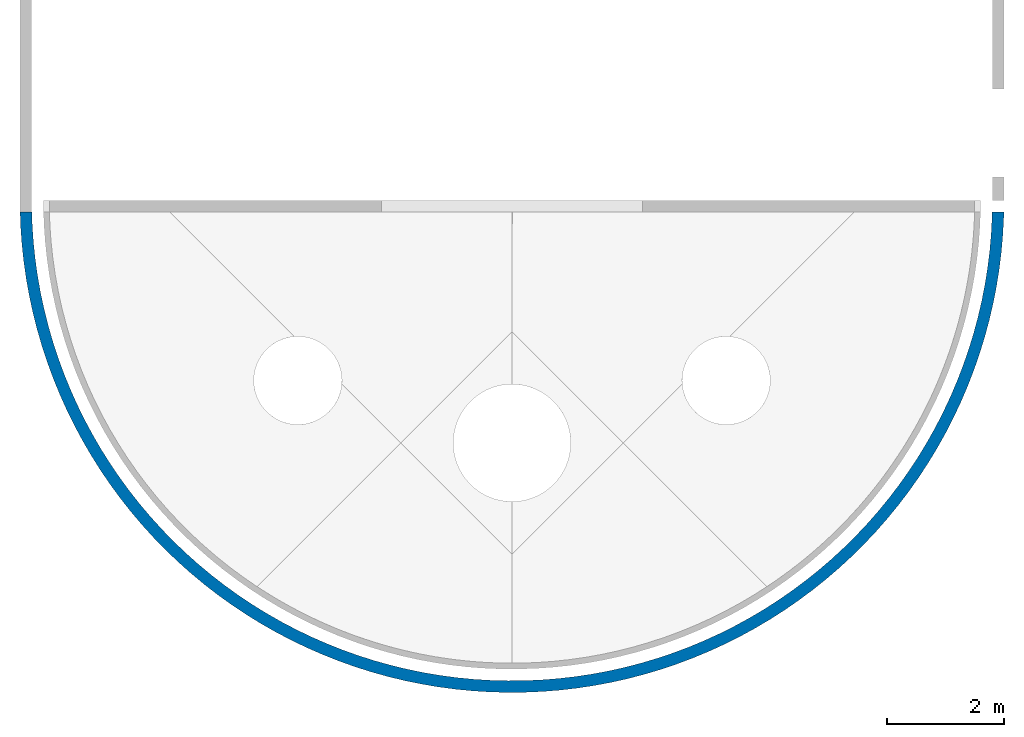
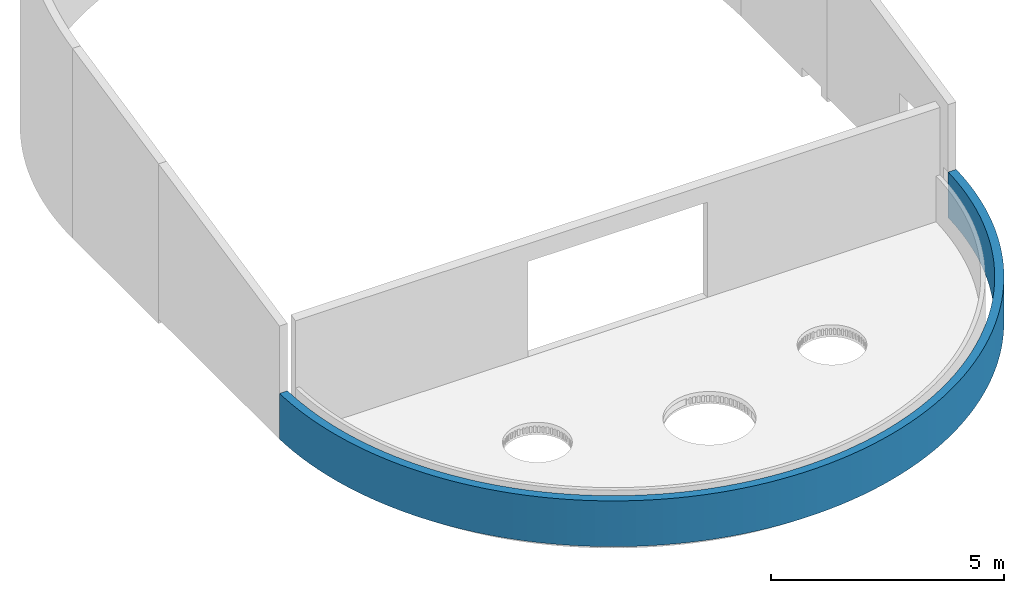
# One storey, part 7 of 10: 1 wall.
"""IFC4 building model written with IfcOpenShell, lengths in millimetres."""

from ifc_helpers import new_model, entity, si_unit, converted_unit, derived_unit, direction, frame, origin_with_axes, place, context, subcontext, project, spatial, polygons, material, constituent, constituent_set, type_object, element, save


model = new_model("IFC4")

# Units and contexts
model_context = context("Model", 3, precision=0.01, world=origin_with_axes(), true_north=direction((0.0, 1.0)))
body_context = subcontext(model_context, "Body", "Model", "MODEL_VIEW")
ifc_project = project(units=[si_unit("LENGTHUNIT", "METRE", prefix="MILLI"), si_unit("AREAUNIT", "SQUARE_METRE"), si_unit("VOLUMEUNIT", "CUBIC_METRE"), converted_unit("PLANEANGLEUNIT", "DEGREE", entity("IfcPlaneAngleMeasure", 0.0174532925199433), si_unit("PLANEANGLEUNIT", "RADIAN"), dimensions=[0, 0, 0, 0, 0, 0, 0]), converted_unit("TIMEUNIT", "Year", entity("IfcTimeMeasure", 31557600.0), si_unit("TIMEUNIT", "SECOND"), dimensions=[0, 0, 1, 0, 0, 0, 0]), si_unit("MASSUNIT", "GRAM", prefix="KILO"), si_unit("THERMODYNAMICTEMPERATUREUNIT", "DEGREE_CELSIUS"), si_unit("LUMINOUSINTENSITYUNIT", "LUMEN"), si_unit("ENERGYUNIT", "JOULE", prefix="MEGA"), derived_unit("THERMALCONDUCTANCEUNIT", [(si_unit("POWERUNIT", "WATT"), 1), (si_unit("LENGTHUNIT", "METRE"), -1), (si_unit("THERMODYNAMICTEMPERATUREUNIT", "KELVIN"), -1)]), derived_unit("SPECIFICHEATCAPACITYUNIT", [(si_unit("ENERGYUNIT", "JOULE"), 1), (si_unit("MASSUNIT", "GRAM", prefix="KILO"), -1), (si_unit("THERMODYNAMICTEMPERATUREUNIT", "KELVIN"), -1)]), derived_unit("MASSDENSITYUNIT", [(si_unit("MASSUNIT", "GRAM", prefix="KILO"), 1), (si_unit("VOLUMEUNIT", "CUBIC_METRE"), -1)])], contexts=[model_context])

# Site, building, storey
site_placement = place(None, origin_with_axes())
site = spatial("IfcSite", under=ifc_project, at=site_placement, Name="Exteriér", CompositionType="ELEMENT")
building_placement = place(site_placement, origin_with_axes())
building = spatial("IfcBuilding", under=site, at=building_placement, Name="Univerzitní lezecké centrum", CompositionType="ELEMENT")
storey_placement = place(building_placement, frame((0.0, 0.0, 9600.000000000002), z_axis=(0.0, 0.0, 1.0), x_axis=(1.0, 0.0, 0.0)))
storey = spatial("IfcBuildingStorey", under=building, at=storey_placement, Name="4.NP", CompositionType="ELEMENT", Elevation=9600.0)

# Wall
ifc_material = material(Name="Tepelná izolace - minerální vata - obvodová izolace")
ifc_constituent = constituent(ifc_material, Name="Tepelná izolace - minerální vata - obvodová izolace")
ifc_constituent_set = constituent_set(constituents=[ifc_constituent], Name="Obvodová tepelná izolace")
wall_type = type_object("IfcWallType", Name="Obvodová tepelná izolace 200", PredefinedType="NOTDEFINED")
wall_placement = place(storey_placement, frame((-5750.148351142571, -299.9999999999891, 0.0), z_axis=(0.0, 0.0, 1.0), x_axis=(0.0, -1.0, 0.0)))
element("IfcWall", 1, at=wall_placement, inside=storey, type_object=wall_type, material=ifc_constituent_set, Name="St01*", PredefinedType="NOTDEFINED", context=body_context, shape_type="Tessellation", body=[
    polygons([(200.0000000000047, 16597.36717770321, 0.0), (200.0000000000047, 16597.36717770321, 1199.999999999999), (294.8382516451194, 16596.11871638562, 1199.999999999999), (294.8382516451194, 16596.11871638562, 0.0), (200.0000000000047, 16399.99999999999, 1199.999999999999), (200.0000000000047, 16399.99999999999, 0.0), (200.0000000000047, 16397.36717770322, 1199.999999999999), (287.8182932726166, 16396.21112790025, 1199.999999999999), (589.3132639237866, 16580.59955917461, 1199.999999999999), (589.3132639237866, 16580.59955917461, 0.0), (287.8182932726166, 16396.21112790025, 0.0), (200.0000000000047, 16397.36717770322, 0.0), (575.281995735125, 16381.06147443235, 1199.999999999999), (883.0622449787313, 16554.75554195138, 1199.999999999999), (883.0622449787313, 16554.75554195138, 0.0), (575.281995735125, 16381.06147443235, 0.0), (862.0369534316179, 16355.83279095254, 1199.999999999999), (1175.723297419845, 16518.61850442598, 1199.999999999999), (1175.723297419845, 16518.61850442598, 0.0), (862.0369534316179, 16355.83279095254, 0.0), (1147.729885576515, 16320.5561590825, 1199.999999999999), (1466.935864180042, 16472.23296726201, 1199.999999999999), (1466.935864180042, 16472.23296726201, 0.0), (1147.729885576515, 16320.5561590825, 0.0), (1432.008819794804, 16275.27503947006, 1199.999999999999), (1756.341172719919, 16415.65607722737, 1199.999999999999), (1756.341172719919, 16415.65607722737, 0.0), (1432.008819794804, 16275.27503947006, 0.0), (1714.523525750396, 16220.04521824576, 1199.999999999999), (2043.582677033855, 16348.95753678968, 1199.999999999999), (2043.582677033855, 16348.95753678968, 0.0), (1714.523525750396, 16220.04521824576, 0.0), (1994.925946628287, 16154.93473829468, 1199.999999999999), (2328.306496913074, 16272.2195182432, 1199.999999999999), (2328.306496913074, 16272.2195182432, 0.0), (1994.925946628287, 16154.93473829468, 0.0), (2272.870627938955, 16080.02381542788, 1199.999999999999), (2610.161853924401, 16185.53656247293, 1199.999999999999), (2610.161853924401, 16185.53656247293, 0.0), (2272.870627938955, 16080.02381542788, 0.0), (2548.015143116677, 15995.40473955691, 1199.999999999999), (2888.801503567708, 16089.01546248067, 1199.999999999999), (2888.801503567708, 16089.01546248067, 0.0), (2548.015143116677, 15995.40473955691, 0.0), (2820.020515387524, 15901.18176099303, 1199.999999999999), (3163.882163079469, 15982.77513181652, 1199.999999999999), (3163.882163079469, 15982.77513181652, 0.0), (2820.020515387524, 15901.18176099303, 0.0), (3088.5516353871, 15797.47096201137, 1199.999999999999), (3435.064934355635, 15866.94645807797, 1199.999999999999), (3435.064934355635, 15866.94645807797, 0.0), (3088.5516353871, 15797.47096201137, 0.0), (3353.277674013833, 15684.40011383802, 1199.999999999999), (3702.015721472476, 15741.67214165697, 1199.999999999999), (3702.015721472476, 15741.67214165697, 0.0), (3353.277674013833, 15684.40011383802, 0.0), (3613.872490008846, 15562.10851923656, 1199.999999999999), (3964.405642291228, 15607.10651993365, 1199.999999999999), (3964.405642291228, 15607.10651993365, 0.0), (3613.872490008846, 15562.10851923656, 0.0), (3870.015031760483, 15430.74684088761, 1199.999999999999), (4221.911433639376, 15463.41537713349, 1199.999999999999), (4221.911433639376, 15463.41537713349, 0.0), (3870.015031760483, 15430.74684088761, 0.0), (4121.389732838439, 15290.47691577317, 1199.999999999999), (4474.215849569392, 15310.77574008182, 1199.999999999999), (4474.215849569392, 15310.77574008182, 0.0), (4121.389732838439, 15290.47691577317, 0.0), (4367.686900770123, 15141.47155579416, 1199.999999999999), (4721.008052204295, 15149.37566010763, 1199.999999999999), (4721.008052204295, 15149.37566010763, 0.0), (4367.686900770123, 15141.47155579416, 0.0), (4608.603098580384, 14983.91433486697, 1199.999999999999), (4961.983994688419, 14979.41398136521, 1199.999999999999), (4961.983994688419, 14979.41398136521, 0.0), (4608.603098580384, 14983.91433486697, 0.0), (4843.841518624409, 14817.99936276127, 1199.999999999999), (5196.846795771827, 14801.10009585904, 1199.999999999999), (5196.846795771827, 14801.10009585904, 0.0), (4843.841518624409, 14817.99936276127, 0.0), (5073.11234825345, 14643.93104595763, 1199.999999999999), (5425.307105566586, 14614.65368547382, 1199.999999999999), (5425.307105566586, 14614.65368547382, 0.0), (5073.11234825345, 14643.93104595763, 0.0), (5296.133126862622, 14461.92383581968, 1199.999999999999), (5647.083462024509, 14420.30445132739, 1199.999999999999), (5647.083462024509, 14420.30445132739, 0.0), (5296.133126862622, 14461.92383581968, 0.0), (5512.629093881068, 14272.20196439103, 1199.999999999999), (5861.902637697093, 14218.29183078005, 1199.999999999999), (5861.902637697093, 14218.29183078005, 0.0), (5512.629093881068, 14272.20196439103, 0.0), (5722.333527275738, 14074.99916814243, 1199.999999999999), (6069.499976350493, 14008.86470244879, 1199.999999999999), (6069.499976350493, 14008.86470244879, 0.0), (5722.333527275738, 14074.99916814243, 0.0), (5924.988072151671, 13870.55840000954, 1199.999999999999), (6269.619719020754, 13792.28107959, 1199.999999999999), (6269.619719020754, 13792.28107959, 0.0), (5924.988072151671, 13870.55840000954, 0.0), (6120.343059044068, 13659.13153007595, 1199.999999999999), (6462.015319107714, 13568.80779222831, 1199.999999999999), (6462.015319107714, 13568.80779222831, 0.0), (6120.343059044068, 13659.13153007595, 0.0), (6308.157811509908, 13440.97903527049, 1199.999999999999), (6646.449746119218, 13338.7201584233, 1199.999999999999), (6646.449746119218, 13338.7201584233, 0.0), (6308.157811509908, 13440.97903527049, 0.0), (6488.200942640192, 13216.36967846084, 1199.999999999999), (6822.695777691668, 13102.30164507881, 1199.999999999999), (6822.695777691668, 13102.30164507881, 0.0), (6488.200942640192, 13216.36967846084, 0.0), (6660.25064012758, 12985.58017733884, 1199.999999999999), (6990.536279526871, 12859.84351871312, 1199.999999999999), (6990.536279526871, 12859.84351871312, 0.0), (6660.25064012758, 12985.58017733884, 0.0), (6824.094939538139, 12748.89486350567, 1199.999999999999), (7149.764472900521, 12611.64448661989, 1199.999999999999), (7149.764472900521, 12611.64448661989, 0.0), (6824.094939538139, 12748.89486350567, 0.0), (6979.531985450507, 12506.60533217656, 1199.999999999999), (7300.184189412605, 12358.01032886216, 1199.999999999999), (7300.184189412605, 12358.01032886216, 0.0), (6979.531985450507, 12506.60533217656, 0.0), (7126.370280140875, 12259.01008293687, 1199.999999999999), (7441.610112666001, 12099.25352155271, 1199.999999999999), (7441.610112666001, 12099.25352155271, 0.0), (7126.370280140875, 12259.01008293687, 0.0), (7264.428919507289, 12006.41415199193, 1199.999999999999), (7573.868006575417, 11835.69285188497, 1199.999999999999), (7573.868006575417, 11835.69285188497, 0.0), (7264.428919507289, 12006.41415199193, 0.0), (7393.537815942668, 11749.1287363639, 1199.999999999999), (7696.794930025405, 11567.65302538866, 1199.999999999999), (7696.794930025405, 11567.65302538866, 0.0), (7393.537815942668, 11749.1287363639, 0.0), (7513.537907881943, 11487.47081049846, 1199.999999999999), (7810.239437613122, 11295.46426589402, 1199.999999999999), (7810.239437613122, 11295.46426589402, 0.0), (7513.537907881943, 11487.47081049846, 0.0), (7624.281355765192, 11221.76273575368, 1199.999999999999), (7914.061766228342, 11019.46190869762, 1199.999999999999), (7914.061766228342, 11019.46190869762, 0.0), (7624.281355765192, 11221.76273575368, 0.0), (7725.631724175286, 10952.33186325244, 1199.999999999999), (8008.134007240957, 10739.98598743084, 1199.999999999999), (8008.134007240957, 10739.98598743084, 0.0), (7725.631724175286, 10952.33186325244, 0.0), (7817.464149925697, 10679.51013058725, 1199.999999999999), (8092.340264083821, 10457.38081513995, 1199.999999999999), (8092.340264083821, 10457.38081513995, 0.0), (7817.464149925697, 10679.51013058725, 0.0), (7899.665495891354, 10403.63365287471, 1199.999999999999), (8166.576795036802, 10171.99456009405, 1199.999999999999), (8166.576795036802, 10171.99456009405, 0.0), (7899.665495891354, 10403.63365287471, 0.0), (7972.134490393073, 10125.04230866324, 1199.999999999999), (8230.752141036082, 9884.178816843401, 1199.999999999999), (8230.752141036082, 9884.178816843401, 0.0), (7972.134490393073, 10125.04230866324, 0.0), (8034.781851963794, 9844.079321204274, 1199.999999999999), (8284.787238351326, 9594.288173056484, 1199.999999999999), (8284.787238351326, 9594.288173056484, 0.0), (8034.781851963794, 9844.079321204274, 0.0), (8087.530399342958, 9561.090835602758, 1199.999999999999), (8328.61551599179, 9302.679772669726, 1199.999999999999), (8328.61551599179, 9302.679772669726, 0.0), (8087.530399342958, 9561.090835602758, 0.0), (8130.315146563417, 9276.425492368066, 1199.999999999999), (8362.182977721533, 9009.712875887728, 1199.999999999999), (8362.182977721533, 9009.712875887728, 0.0), (8130.315146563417, 9276.425492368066, 0.0), (8163.083383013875, 8990.4339978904, 1199.999999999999), (8385.448268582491, 8715.74841657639, 1199.999999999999), (8385.448268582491, 8715.74841657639, 0.0), (8163.083383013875, 8990.4339978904, 0.0), (8185.794738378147, 8703.46869237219, 1199.999999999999), (8398.382725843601, 8421.148557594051, 1199.999999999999), (8398.382725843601, 8421.148557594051, 0.0), (8185.794738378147, 8703.46869237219, 0.0), (8198.421232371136, 8415.883115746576, 1199.999999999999), (8400.970414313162, 8126.276244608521, 1199.999999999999), (8400.970414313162, 8126.276244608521, 0.0), (8198.421232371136, 8415.883115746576, 0.0), (8200.94730921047, 8128.031572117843, 1199.999999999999), (8393.208145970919, 7831.494758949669, 1199.999999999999), (8393.208145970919, 7831.494758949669, 0.0), (8200.94730921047, 8128.031572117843, 0.0), (8193.369856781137, 7840.268693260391, 1199.999999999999), (8375.105483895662, 7537.167270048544, 1199.999999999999), (8375.105483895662, 7537.167270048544, 0.0), (8193.369856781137, 7840.268693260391, 0.0), (8175.698210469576, 7552.949001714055, 1199.999999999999), (8346.684730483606, 7243.65638801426, 1199.999999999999), (8346.684730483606, 7243.65638801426, 0.0), (8175.698210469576, 7552.949001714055, 0.0), (8147.95414166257, 7266.426474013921, 1199.999999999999), (8307.980899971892, 6951.323716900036, 1199.999999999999), (8307.980899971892, 6951.323716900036, 0.0), (8147.95414166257, 7266.426474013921, 0.0), (8110.171830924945, 6981.054104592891, 1199.999999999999), (8259.041675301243, 6660.529409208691, 1199.999999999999), (8259.041675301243, 6660.529409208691, 0.0), (8110.171830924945, 6981.054104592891, 0.0), (8062.397825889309, 6697.183470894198, 1199.999999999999), (8199.927349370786, 6371.631722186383, 1199.999999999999), (8199.927349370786, 6371.631722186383, 0.0), (8062.397825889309, 6697.183470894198, 0.0), (8004.69098390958, 6415.164300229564, 1199.999999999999), (8130.710750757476, 6084.986576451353, 1199.999999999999), (8130.710750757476, 6084.986576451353, 0.0), (8004.69098390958, 6415.164300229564, 0.0), (7937.122399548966, 6135.344038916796, 1199.999999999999), (8051.47715399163, 5800.947117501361, 1199.999999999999), (8051.47715399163, 5800.947117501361, 0.0), (7937.122399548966, 6135.344038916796, 0.0), (7859.775316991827, 5858.067424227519, 1199.999999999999), (7962.324174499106, 5519.863280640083, 1199.999999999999), (7962.324174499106, 5519.863280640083, 0.0), (7859.775316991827, 5858.067424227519, 0.0), (7772.745027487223, 5583.676059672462, 1199.999999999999), (7863.361648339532, 5242.081359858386, 1199.999999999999), (7863.361648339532, 5242.081359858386, 0.0), (7772.745027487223, 5583.676059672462, 0.0), (7676.138751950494, 5312.507994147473, 1199.999999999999), (7754.7114968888, 4967.943581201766, 1199.999999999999), (7754.7114968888, 4967.943581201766, 0.0), (7676.138751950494, 5312.507994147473, 0.0), (7570.07550886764, 5044.897305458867, 1199.999999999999), (7636.507576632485, 4697.787681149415, 1199.999999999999), (7636.507576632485, 4697.787681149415, 0.0), (7570.07550886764, 5044.897305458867, 0.0), (7454.685967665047, 4781.173688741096, 1199.999999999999), (7508.895514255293, 4431.946490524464, 1199.999999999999), (7508.895514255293, 4431.946490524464, 0.0), (7454.685967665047, 4781.173688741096, 0.0), (7330.112287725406, 4521.662050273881, 1199.999999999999), (7372.03252722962, 4170.747524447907, 1199.999999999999), (7372.03252722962, 4170.747524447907, 0.0), (7330.112287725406, 4521.662050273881, 0.0), (7196.507943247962, 4266.682107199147, 1199.999999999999), (7226.087230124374, 3914.512578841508, 1199.999999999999), (7226.087230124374, 3914.512578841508, 0.0), (7196.507943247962, 4266.682107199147, 0.0), (7054.03753416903, 4016.547993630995, 1199.999999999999), (7071.239426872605, 3663.557333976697, 1199.999999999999), (7071.239426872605, 3663.557333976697, 0.0), (7054.03753416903, 4016.547993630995, 0.0), (6902.876583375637, 3771.567873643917, 1199.999999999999), (6907.679889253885, 3418.190965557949, 1199.999999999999), (6907.679889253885, 3418.190965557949, 0.0), (6902.876583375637, 3771.567873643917, 0.0), (6743.211320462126, 3532.043561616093, 1199.999999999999), (6735.610121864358, 3178.715763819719, 1199.999999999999), (6735.610121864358, 3178.715763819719, 0.0), (6743.211320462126, 3532.043561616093, 0.0), (6575.238452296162, 3298.270150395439, 1199.999999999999), (6555.242113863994, 2945.426761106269, 1199.999999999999), (6555.242113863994, 2945.426761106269, 0.0), (6575.238452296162, 3298.270150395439, 0.0), (6399.164920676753, 3070.535647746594, 1199.999999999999), (6366.79807780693, 2718.611368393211, 1199.999999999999), (6366.79807780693, 2718.611368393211, 0.0), (6399.164920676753, 3070.535647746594, 0.0), (6215.207647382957, 2849.120621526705, 1199.999999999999), (6170.510175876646, 2498.549021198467, 1199.999999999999), (6170.510175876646, 2498.549021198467, 0.0), (6215.207647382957, 2849.120621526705, 0.0), (6023.593266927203, 2634.297854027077, 1199.999999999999), (5966.620233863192, 2285.510835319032, 1199.999999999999), (5966.620233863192, 2285.510835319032, 0.0), (6023.593266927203, 2634.297854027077, 0.0), (5824.557847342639, 2426.332005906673, 1199.999999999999), (5755.379443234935, 2079.759272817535, 1199.999999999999), (5755.379443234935, 2079.759272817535, 0.0), (5824.557847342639, 2426.332005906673, 0.0), (5618.346599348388, 2225.479290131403, 1199.999999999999), (5537.048051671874, 1881.547818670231, 1199.999999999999), (5537.048051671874, 1881.547818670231, 0.0), (5618.346599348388, 2225.479290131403, 0.0), (5405.213574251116, 2031.987156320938, 1199.999999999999), (5311.895042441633, 1691.120668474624, 1199.999999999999), (5311.895042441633, 1691.120668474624, 0.0), (5405.213574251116, 2031.987156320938, 0.0), (5185.421350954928, 1846.093985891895, 1199.999999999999), (5080.197803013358, 1508.71242760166, 1199.999999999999), (5080.197803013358, 1508.71242760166, 0.0), (5185.421350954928, 1846.093985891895, 0.0), (4959.240712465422, 1668.028798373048, 1199.999999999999), (4842.241783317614, 1334.547822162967, 1199.999999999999), (4842.241783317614, 1334.547822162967, 0.0), (4959.240712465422, 1668.028798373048, 0.0), (4726.950312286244, 1498.010969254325, 1199.999999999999), (4598.320144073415, 1168.841422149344, 1199.999999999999), (4598.320144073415, 1168.841422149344, 0.0), (4726.950312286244, 1498.010969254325, 0.0), (4488.836331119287, 1336.249959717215, 1199.999999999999), (4348.733395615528, 1011.797377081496, 1199.999999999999), (4348.733395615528, 1011.797377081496, 0.0), (4488.836331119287, 1336.249959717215, 0.0), (4245.19212429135, 1182.945058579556, 1199.999999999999), (4093.789027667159, 863.6091644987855, 1199.999999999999), (4093.789027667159, 863.6091644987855, 0.0), (4245.19212429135, 1182.945058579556, 0.0), (3996.31786034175, 1038.285136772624, 1199.999999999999), (3833.80113051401, 724.459351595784, 1199.999999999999), (3833.80113051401, 724.459351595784, 0.0), (3996.31786034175, 1038.285136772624, 0.0), (3742.520151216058, 902.4484146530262, 1199.999999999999), (3569.090008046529, 594.5193703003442, 1199.999999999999), (3569.090008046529, 594.5193703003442, 0.0), (3742.520151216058, 902.4484146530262, 0.0), (3484.111674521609, 775.6022424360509, 1199.999999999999), (3299.98178314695, 473.9493060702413, 1199.999999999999), (3299.98178314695, 473.9493060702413, 0.0), (3484.111674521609, 775.6022424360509, 0.0), (3221.410788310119, 657.9028940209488, 1199.999999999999), (3026.807995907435, 362.8977006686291, 1199.999999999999), (3026.807995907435, 362.8977006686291, 0.0), (3221.410788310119, 657.9028940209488, 0.0), (2954.741138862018, 549.495374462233, 1199.999999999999), (2749.905195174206, 261.5013691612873, 1199.999999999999), (2749.905195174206, 261.5013691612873, 0.0), (2954.741138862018, 549.495374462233, 0.0), (2684.431261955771, 450.5132413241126, 1199.999999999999), (2469.614523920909, 169.885231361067, 1199.999999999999), (2469.614523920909, 169.885231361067, 0.0), (2684.431261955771, 450.5132413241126, 0.0), (2410.814178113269, 361.0784401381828, 1199.999999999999), (2186.281298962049, 88.162157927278, 1199.999999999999), (2186.281298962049, 88.162157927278, 0.0), (2410.814178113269, 361.0784401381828, 0.0), (2134.226982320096, 281.3011541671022, 1199.999999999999), (1900.254585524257, 16.43283130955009, 1199.999999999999), (1900.254585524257, 16.43283130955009, 0.0), (2134.226982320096, 281.3011541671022, 0.0), (1855.010428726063, 211.2796686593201, 1199.999999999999), (1611.886767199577, -45.21437829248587, 1199.999999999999), (1611.886767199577, -45.21437829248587, 0.0), (1855.010428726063, 211.2796686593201, 0.0), (1573.508510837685, 151.1002497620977, 1199.999999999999), (1321.533111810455, -96.70352180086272, 1199.999999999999), (1321.533111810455, -96.70352180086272, 0.0), (1573.508510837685, 151.1002497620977, 0.0), (1290.068037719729, 100.8370382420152, 1199.999999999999), (1029.551333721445, -137.9711648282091, 1199.999999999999), (1029.551333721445, -137.9711648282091, 0.0), (1290.068037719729, 100.8370382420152, 0.0), (1005.038206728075, 60.55195814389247, 1199.999999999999), (736.3011531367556, -168.9664658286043, 1199.999999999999), (736.3011531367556, -168.9664658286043, 0.0), (1005.038206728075, 60.55195814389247, 0.0), (718.7701733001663, 30.29464050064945, 1199.999999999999), (442.1438529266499, -189.6512387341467, 1199.999999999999), (442.1438529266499, -189.6512387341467, 0.0), (718.7701733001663, 30.29464050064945, 0.0), (431.6166183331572, 10.10236218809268, 1199.999999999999), (199.9999999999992, -198.1543665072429, 1199.999999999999), (199.9999999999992, -198.1543665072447, 0.0), (431.6166183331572, 10.10236218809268, 0.0), (199.9999999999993, 1.968908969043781, 1199.999999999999), (199.9999999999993, 1.968908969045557, 0.0)], [[[1, 2, 3, 4]], [[5, 2, 1, 6]], [[2, 5, 7, 8, 3]], [[9, 10, 4, 3]], [[6, 1, 4, 11, 12]], [[5, 6, 12, 7]], [[7, 12, 11, 8]], [[13, 9, 3, 8]], [[14, 15, 10, 9]], [[10, 16, 11, 4]], [[16, 13, 8, 11]], [[17, 14, 9, 13]], [[18, 19, 15, 14]], [[15, 20, 16, 10]], [[20, 17, 13, 16]], [[21, 18, 14, 17]], [[22, 23, 19, 18]], [[19, 24, 20, 15]], [[24, 21, 17, 20]], [[25, 22, 18, 21]], [[26, 27, 23, 22]], [[23, 28, 24, 19]], [[28, 25, 21, 24]], [[29, 26, 22, 25]], [[30, 31, 27, 26]], [[27, 32, 28, 23]], [[32, 29, 25, 28]], [[33, 30, 26, 29]], [[34, 35, 31, 30]], [[31, 36, 32, 27]], [[36, 33, 29, 32]], [[37, 34, 30, 33]], [[38, 39, 35, 34]], [[35, 40, 36, 31]], [[40, 37, 33, 36]], [[41, 38, 34, 37]], [[42, 43, 39, 38]], [[39, 44, 40, 35]], [[44, 41, 37, 40]], [[45, 42, 38, 41]], [[46, 47, 43, 42]], [[43, 48, 44, 39]], [[48, 45, 41, 44]], [[49, 46, 42, 45]], [[50, 51, 47, 46]], [[47, 52, 48, 43]], [[52, 49, 45, 48]], [[53, 50, 46, 49]], [[54, 55, 51, 50]], [[51, 56, 52, 47]], [[56, 53, 49, 52]], [[57, 54, 50, 53]], [[58, 59, 55, 54]], [[55, 60, 56, 51]], [[60, 57, 53, 56]], [[61, 58, 54, 57]], [[62, 63, 59, 58]], [[59, 64, 60, 55]], [[64, 61, 57, 60]], [[65, 62, 58, 61]], [[66, 67, 63, 62]], [[63, 68, 64, 59]], [[68, 65, 61, 64]], [[69, 66, 62, 65]], [[70, 71, 67, 66]], [[67, 72, 68, 63]], [[72, 69, 65, 68]], [[73, 70, 66, 69]], [[74, 75, 71, 70]], [[71, 76, 72, 67]], [[76, 73, 69, 72]], [[77, 74, 70, 73]], [[78, 79, 75, 74]], [[75, 80, 76, 71]], [[80, 77, 73, 76]], [[81, 78, 74, 77]], [[82, 83, 79, 78]], [[79, 84, 80, 75]], [[84, 81, 77, 80]], [[85, 82, 78, 81]], [[86, 87, 83, 82]], [[83, 88, 84, 79]], [[88, 85, 81, 84]], [[89, 86, 82, 85]], [[90, 91, 87, 86]], [[87, 92, 88, 83]], [[92, 89, 85, 88]], [[93, 90, 86, 89]], [[94, 95, 91, 90]], [[91, 96, 92, 87]], [[96, 93, 89, 92]], [[97, 94, 90, 93]], [[98, 99, 95, 94]], [[95, 100, 96, 91]], [[100, 97, 93, 96]], [[101, 98, 94, 97]], [[102, 103, 99, 98]], [[99, 104, 100, 95]], [[104, 101, 97, 100]], [[105, 102, 98, 101]], [[106, 107, 103, 102]], [[103, 108, 104, 99]], [[108, 105, 101, 104]], [[109, 106, 102, 105]], [[110, 111, 107, 106]], [[107, 112, 108, 103]], [[112, 109, 105, 108]], [[113, 110, 106, 109]], [[114, 115, 111, 110]], [[111, 116, 112, 107]], [[116, 113, 109, 112]], [[117, 114, 110, 113]], [[118, 119, 115, 114]], [[115, 120, 116, 111]], [[120, 117, 113, 116]], [[121, 118, 114, 117]], [[122, 123, 119, 118]], [[119, 124, 120, 115]], [[124, 121, 117, 120]], [[125, 122, 118, 121]], [[126, 127, 123, 122]], [[123, 128, 124, 119]], [[128, 125, 121, 124]], [[129, 126, 122, 125]], [[130, 131, 127, 126]], [[127, 132, 128, 123]], [[132, 129, 125, 128]], [[133, 130, 126, 129]], [[134, 135, 131, 130]], [[131, 136, 132, 127]], [[136, 133, 129, 132]], [[137, 134, 130, 133]], [[138, 139, 135, 134]], [[135, 140, 136, 131]], [[140, 137, 133, 136]], [[141, 138, 134, 137]], [[142, 143, 139, 138]], [[139, 144, 140, 135]], [[144, 141, 137, 140]], [[145, 142, 138, 141]], [[146, 147, 143, 142]], [[143, 148, 144, 139]], [[148, 145, 141, 144]], [[149, 146, 142, 145]], [[150, 151, 147, 146]], [[147, 152, 148, 143]], [[152, 149, 145, 148]], [[153, 150, 146, 149]], [[154, 155, 151, 150]], [[151, 156, 152, 147]], [[156, 153, 149, 152]], [[157, 154, 150, 153]], [[158, 159, 155, 154]], [[155, 160, 156, 151]], [[160, 157, 153, 156]], [[161, 158, 154, 157]], [[162, 163, 159, 158]], [[159, 164, 160, 155]], [[164, 161, 157, 160]], [[165, 162, 158, 161]], [[166, 167, 163, 162]], [[163, 168, 164, 159]], [[168, 165, 161, 164]], [[169, 166, 162, 165]], [[170, 171, 167, 166]], [[167, 172, 168, 163]], [[172, 169, 165, 168]], [[173, 170, 166, 169]], [[174, 175, 171, 170]], [[171, 176, 172, 167]], [[176, 173, 169, 172]], [[177, 174, 170, 173]], [[178, 179, 175, 174]], [[175, 180, 176, 171]], [[180, 177, 173, 176]], [[181, 178, 174, 177]], [[182, 183, 179, 178]], [[179, 184, 180, 175]], [[184, 181, 177, 180]], [[185, 182, 178, 181]], [[186, 187, 183, 182]], [[183, 188, 184, 179]], [[188, 185, 181, 184]], [[189, 186, 182, 185]], [[190, 191, 187, 186]], [[187, 192, 188, 183]], [[192, 189, 185, 188]], [[193, 190, 186, 189]], [[194, 195, 191, 190]], [[191, 196, 192, 187]], [[196, 193, 189, 192]], [[197, 194, 190, 193]], [[198, 199, 195, 194]], [[195, 200, 196, 191]], [[200, 197, 193, 196]], [[201, 198, 194, 197]], [[202, 203, 199, 198]], [[199, 204, 200, 195]], [[204, 201, 197, 200]], [[205, 202, 198, 201]], [[206, 207, 203, 202]], [[203, 208, 204, 199]], [[208, 205, 201, 204]], [[209, 206, 202, 205]], [[210, 211, 207, 206]], [[207, 212, 208, 203]], [[212, 209, 205, 208]], [[213, 210, 206, 209]], [[214, 215, 211, 210]], [[211, 216, 212, 207]], [[216, 213, 209, 212]], [[217, 214, 210, 213]], [[218, 219, 215, 214]], [[215, 220, 216, 211]], [[220, 217, 213, 216]], [[221, 218, 214, 217]], [[222, 223, 219, 218]], [[219, 224, 220, 215]], [[224, 221, 217, 220]], [[225, 222, 218, 221]], [[226, 227, 223, 222]], [[223, 228, 224, 219]], [[228, 225, 221, 224]], [[229, 226, 222, 225]], [[230, 231, 227, 226]], [[227, 232, 228, 223]], [[232, 229, 225, 228]], [[233, 230, 226, 229]], [[234, 235, 231, 230]], [[231, 236, 232, 227]], [[236, 233, 229, 232]], [[237, 234, 230, 233]], [[238, 239, 235, 234]], [[235, 240, 236, 231]], [[240, 237, 233, 236]], [[241, 238, 234, 237]], [[242, 243, 239, 238]], [[239, 244, 240, 235]], [[244, 241, 237, 240]], [[245, 242, 238, 241]], [[246, 247, 243, 242]], [[243, 248, 244, 239]], [[248, 245, 241, 244]], [[249, 246, 242, 245]], [[250, 251, 247, 246]], [[247, 252, 248, 243]], [[252, 249, 245, 248]], [[253, 250, 246, 249]], [[254, 255, 251, 250]], [[251, 256, 252, 247]], [[256, 253, 249, 252]], [[257, 254, 250, 253]], [[258, 259, 255, 254]], [[255, 260, 256, 251]], [[260, 257, 253, 256]], [[261, 258, 254, 257]], [[262, 263, 259, 258]], [[259, 264, 260, 255]], [[264, 261, 257, 260]], [[265, 262, 258, 261]], [[266, 267, 263, 262]], [[263, 268, 264, 259]], [[268, 265, 261, 264]], [[269, 266, 262, 265]], [[270, 271, 267, 266]], [[267, 272, 268, 263]], [[272, 269, 265, 268]], [[273, 270, 266, 269]], [[274, 275, 271, 270]], [[271, 276, 272, 267]], [[276, 273, 269, 272]], [[277, 274, 270, 273]], [[278, 279, 275, 274]], [[275, 280, 276, 271]], [[280, 277, 273, 276]], [[281, 278, 274, 277]], [[282, 283, 279, 278]], [[279, 284, 280, 275]], [[284, 281, 277, 280]], [[285, 282, 278, 281]], [[286, 287, 283, 282]], [[283, 288, 284, 279]], [[288, 285, 281, 284]], [[289, 286, 282, 285]], [[290, 291, 287, 286]], [[287, 292, 288, 283]], [[292, 289, 285, 288]], [[293, 290, 286, 289]], [[294, 295, 291, 290]], [[291, 296, 292, 287]], [[296, 293, 289, 292]], [[297, 294, 290, 293]], [[298, 299, 295, 294]], [[295, 300, 296, 291]], [[300, 297, 293, 296]], [[301, 298, 294, 297]], [[302, 303, 299, 298]], [[299, 304, 300, 295]], [[304, 301, 297, 300]], [[305, 302, 298, 301]], [[306, 307, 303, 302]], [[303, 308, 304, 299]], [[308, 305, 301, 304]], [[309, 306, 302, 305]], [[310, 311, 307, 306]], [[307, 312, 308, 303]], [[312, 309, 305, 308]], [[313, 310, 306, 309]], [[314, 315, 311, 310]], [[311, 316, 312, 307]], [[316, 313, 309, 312]], [[317, 314, 310, 313]], [[318, 319, 315, 314]], [[315, 320, 316, 311]], [[320, 317, 313, 316]], [[321, 318, 314, 317]], [[322, 323, 319, 318]], [[319, 324, 320, 315]], [[324, 321, 317, 320]], [[325, 322, 318, 321]], [[326, 327, 323, 322]], [[323, 328, 324, 319]], [[328, 325, 321, 324]], [[329, 326, 322, 325]], [[330, 331, 327, 326]], [[327, 332, 328, 323]], [[332, 329, 325, 328]], [[333, 330, 326, 329]], [[334, 335, 331, 330]], [[331, 336, 332, 327]], [[336, 333, 329, 332]], [[337, 334, 330, 333]], [[338, 339, 335, 334]], [[335, 340, 336, 331]], [[340, 337, 333, 336]], [[341, 338, 334, 337]], [[342, 343, 339, 338]], [[339, 344, 340, 335]], [[344, 341, 337, 340]], [[345, 342, 338, 341]], [[346, 347, 343, 342]], [[343, 348, 344, 339]], [[348, 345, 341, 344]], [[349, 346, 342, 345]], [[350, 351, 347, 346]], [[347, 352, 348, 343]], [[352, 349, 345, 348]], [[353, 350, 346, 349]], [[354, 355, 351, 350]], [[351, 356, 352, 347]], [[356, 353, 349, 352]], [[357, 354, 350, 353]], [[358, 359, 355, 354]], [[355, 360, 356, 351]], [[360, 357, 353, 356]], [[361, 358, 354, 357]], [[358, 361, 362, 359]], [[359, 362, 360, 355]], [[362, 361, 357, 360]]], closed=True),
])

save(model, "model.ifc")
